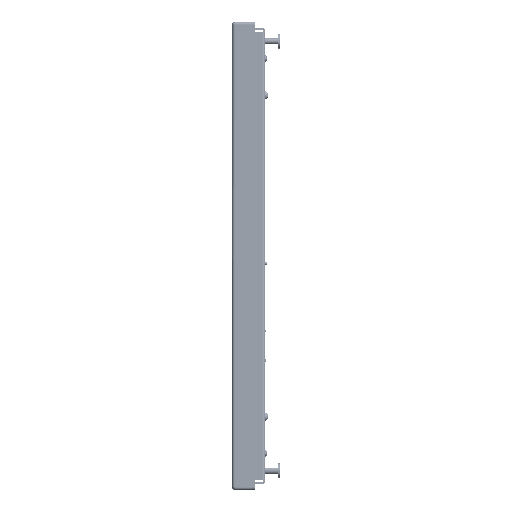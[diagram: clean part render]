
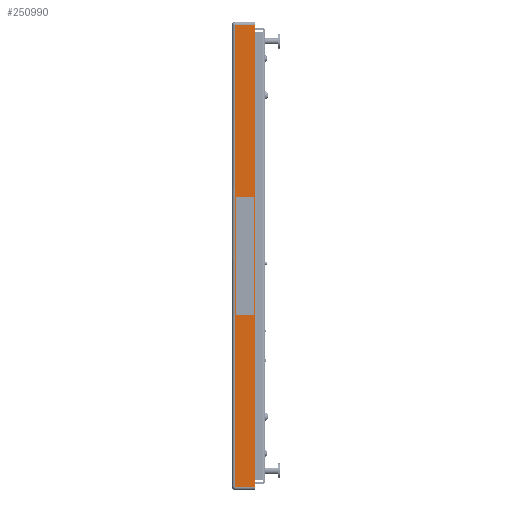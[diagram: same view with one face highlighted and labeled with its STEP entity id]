
A CAD part, left-side view. The second image highlights one B-rep face of the part: STEP entity #250990.
In plain terms, the highlighted planar face has unit normal (-1, 0, 0).
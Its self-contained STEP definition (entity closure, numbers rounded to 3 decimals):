
#14911 = DIRECTION ( 'NONE',  ( 0., 0., -1. ) ) ;
#16655 = AXIS2_PLACEMENT_3D ( 'NONE', #102674, #279958, #103620 ) ;
#23374 = LINE ( 'NONE', #166428, #276369 ) ;
#29255 = VERTEX_POINT ( 'NONE', #45688 ) ;
#36902 = LINE ( 'NONE', #237823, #40308 ) ;
#40308 = VECTOR ( 'NONE', #14911, 1000. ) ;
#44043 = CARTESIAN_POINT ( 'NONE',  ( -300., 0.813, 296.27 ) ) ;
#45688 = CARTESIAN_POINT ( 'NONE',  ( -300., 26.437, -296.27 ) ) ;
#55909 = LINE ( 'NONE', #212908, #62967 ) ;
#62967 = VECTOR ( 'NONE', #257443, 1000. ) ;
#64542 = ORIENTED_EDGE ( 'NONE', *, *, #281795, .T. ) ;
#65488 = ORIENTED_EDGE ( 'NONE', *, *, #106094, .F. ) ;
#74942 = VERTEX_POINT ( 'NONE', #44043 ) ;
#78291 = CARTESIAN_POINT ( 'NONE',  ( -300., 0.813, -296.27 ) ) ;
#85227 = VERTEX_POINT ( 'NONE', #238182 ) ;
#91862 = EDGE_CURVE ( 'NONE', #147236, #29255, #55909, .T. ) ;
#102674 = CARTESIAN_POINT ( 'NONE',  ( -300., 0., 0. ) ) ;
#103620 = DIRECTION ( 'NONE',  ( 0., 1., 0. ) ) ;
#106094 = EDGE_CURVE ( 'NONE', #74942, #147236, #159341, .T. ) ;
#144046 = ORIENTED_EDGE ( 'NONE', *, *, #91862, .F. ) ;
#147236 = VERTEX_POINT ( 'NONE', #78291 ) ;
#159341 = LINE ( 'NONE', #198251, #277216 ) ;
#166428 = CARTESIAN_POINT ( 'NONE',  ( -300., 0., 296.27 ) ) ;
#166525 = EDGE_LOOP ( 'NONE', ( #65488, #64542, #243945, #144046 ) ) ;
#189718 = DIRECTION ( 'NONE',  ( 0., 1., 0. ) ) ;
#198251 = CARTESIAN_POINT ( 'NONE',  ( -300., 0.813, -300. ) ) ;
#212908 = CARTESIAN_POINT ( 'NONE',  ( -300., 0., -296.27 ) ) ;
#220540 = DIRECTION ( 'NONE',  ( 0., 0., -1. ) ) ;
#237823 = CARTESIAN_POINT ( 'NONE',  ( -300., 26.437, 0. ) ) ;
#238182 = CARTESIAN_POINT ( 'NONE',  ( -300., 26.437, 296.27 ) ) ;
#243945 = ORIENTED_EDGE ( 'NONE', *, *, #282099, .T. ) ;
#250990 = ADVANCED_FACE ( 'NONE', ( #255196 ), #280923, .F. ) ;
#255196 = FACE_OUTER_BOUND ( 'NONE', #166525, .T. ) ;
#257443 = DIRECTION ( 'NONE',  ( 0., 1., 0. ) ) ;
#276369 = VECTOR ( 'NONE', #189718, 1000. ) ;
#277216 = VECTOR ( 'NONE', #220540, 1000. ) ;
#279958 = DIRECTION ( 'NONE',  ( 1., 0., 0. ) ) ;
#280923 = PLANE ( 'NONE',  #16655 ) ;
#281795 = EDGE_CURVE ( 'NONE', #74942, #85227, #23374, .T. ) ;
#282099 = EDGE_CURVE ( 'NONE', #85227, #29255, #36902, .T. ) ;
